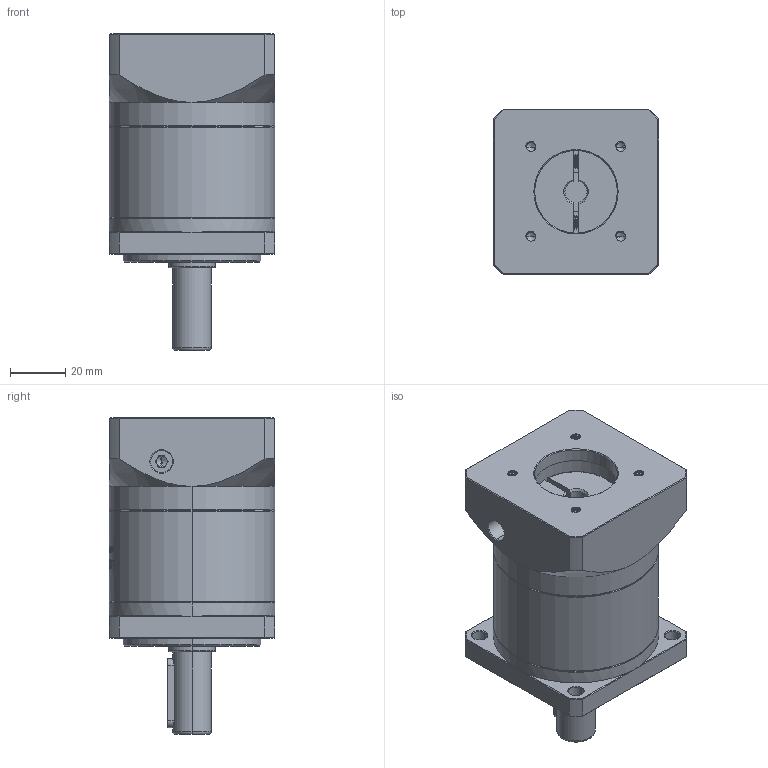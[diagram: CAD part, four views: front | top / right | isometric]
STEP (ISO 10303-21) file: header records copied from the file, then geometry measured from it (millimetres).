
FILE_DESCRIPTION (( 'STEP AP214' ), '1' );
FILE_NAME ('ZF060-D14-L1-P2-8-30-46-M4.step', '2023-08-16T04:22:48', ( '' ), ( '' ), 'SwSTEP 2.0', 'SolidWorks 2016', '' );
FILE_SCHEMA (( 'AUTOMOTIVE_DESIGN' ));
Length unit declared in the file: millimetre
Products named in the file (1): ZF060-D14-L1-P2-8-30-46-M4
Bounding box: 60 x 60 x 115 mm (x, y, z)
Volume: 228509.2 mm3; surface area: 44477.2 mm2
Topology: 6 solids, 6 shells, 1727 faces, 4678 edges, 3034 vertices
Faces by surface type: plane 794, bspline 354, cylinder 332, cone 227, torus 20
Entity records: 95913 total; most frequent: CARTESIAN_POINT 37602, ORIENTED_EDGE 9328, DIRECTION 6673, EDGE_CURVE 4664, VERTEX_POINT 3034, LINE 2365, VECTOR 2365, AXIS2_PLACEMENT_3D 2154
